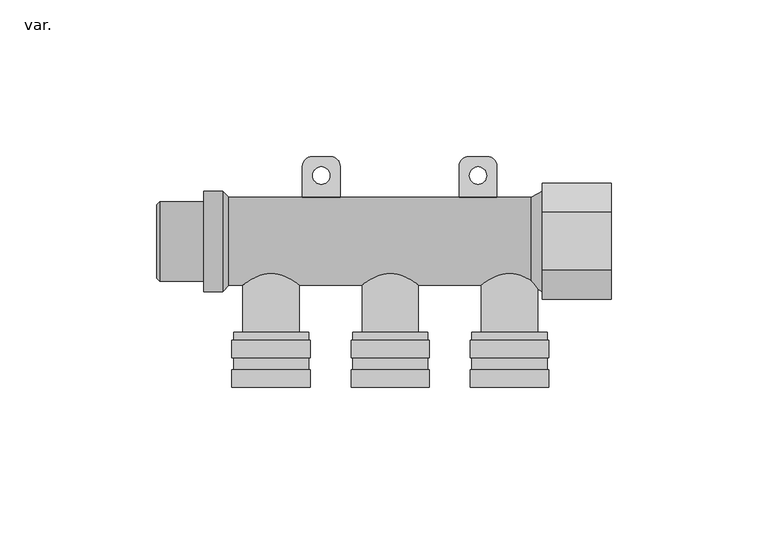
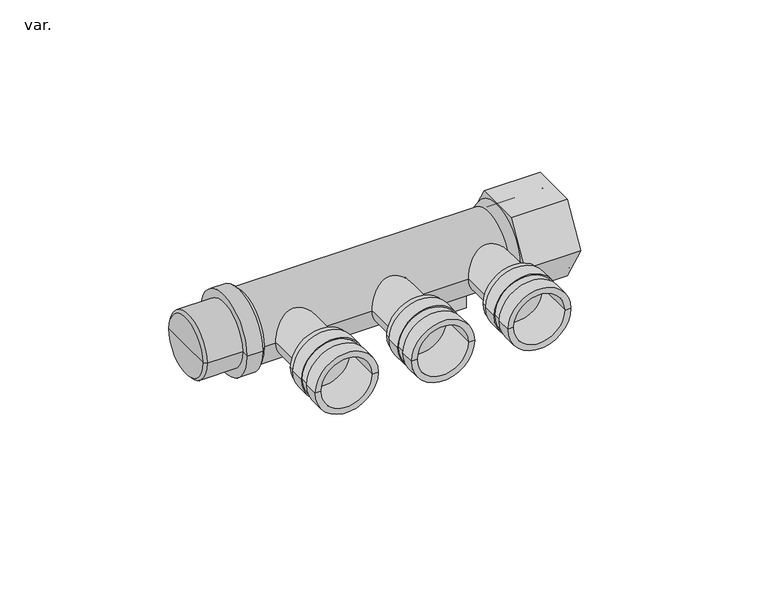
"""IFC4 building model written with IfcOpenShell, lengths in millimetres: pipe fitting geometry, AmancoWavin_ConexõesdeTubos_PEXMódulodeDistribuiçãoAberto3_4x20mm : var.."""

from ifc_helpers import new_model, si_unit, point, frame, origin, origin_2d, place, context, project, spatial, polyline, circle_curve, trimmed, segment, composite_curve, outline, extrude, source, transform, mapped, element, save
from ifc_brep_helpers import plane_surface, cylinder_surface, revolved_surface, advanced_brep


def var_1ea79091(model_context):
    return source(origin(), model_context, "Body", "SolidModel", [
        advanced_brep(
        [(125.0, -46.5, 0.0), (100.0, -46.5, 0.0), (100.0, -40.875, 0.0), (125.0, -40.875, 0.0), (122.675, -46.5, 0.0), (102.325, -46.5, 0.0), (122.675, -31.5, 0.0), (102.325, -31.5, 0.0), (125.0, -31.5, 0.0), (100.0, -31.5, 0.0), (125.0, -37.125, 0.0), (100.0, -37.125, 0.0), (100.5, -40.875, 0.0), (124.5, -40.875, 0.0), (100.5, -37.125, 0.0), (124.5, -37.125, 0.0)],
        [
            (0, 1, circle_curve(frame((112.5, -46.5, 0.0), z_axis=(0.0, 1.0, 0.0), x_axis=(-1.0, 0.0, 0.0)), 12.5)),
            (1, 2),
            (2, 3, circle_curve(frame((112.5, -40.875, 0.0), z_axis=(0.0, -1.0, 0.0), x_axis=(-1.0, 0.0, 0.0)), 12.5)),
            (3, 0),
            (1, 0, circle_curve(frame((112.5, -46.5, 0.0), z_axis=(0.0, 1.0, 0.0), x_axis=(-1.0, 0.0, 0.0)), 12.5)),
            (3, 2, circle_curve(frame((112.5, -40.875, 0.0), z_axis=(0.0, -1.0, 0.0), x_axis=(-1.0, 0.0, 0.0)), 12.5)),
            (0, 4),
            (4, 5, circle_curve(frame((112.5, -46.5, 0.0), z_axis=(0.0, 1.0, 0.0), x_axis=(-1.0, 0.0, 0.0)), 10.175)),
            (5, 1),
            (5, 4, circle_curve(frame((112.5, -46.5, 0.0), z_axis=(0.0, 1.0, 0.0), x_axis=(-1.0, 0.0, 0.0)), 10.175)),
            (4, 6),
            (6, 7, circle_curve(frame((112.5, -31.5, 0.0), z_axis=(0.0, 1.0, 0.0), x_axis=(-1.0, 0.0, 0.0)), 10.175)),
            (7, 5),
            (7, 6, circle_curve(frame((112.5, -31.5, 0.0), z_axis=(0.0, 1.0, 0.0), x_axis=(-1.0, 0.0, 0.0)), 10.175)),
            (6, 8),
            (8, 9, circle_curve(frame((112.5, -31.5, 0.0), z_axis=(0.0, 1.0, 0.0), x_axis=(-1.0, 0.0, 0.0)), 12.5)),
            (9, 7),
            (9, 8, circle_curve(frame((112.5, -31.5, 0.0), z_axis=(0.0, 1.0, 0.0), x_axis=(-1.0, 0.0, 0.0)), 12.5)),
            (8, 10),
            (10, 11, circle_curve(frame((112.5, -37.125, 0.0), z_axis=(0.0, 1.0, 0.0), x_axis=(-1.0, 0.0, 0.0)), 12.5)),
            (11, 9),
            (11, 10, circle_curve(frame((112.5, -37.125, 0.0), z_axis=(0.0, 1.0, 0.0), x_axis=(-1.0, 0.0, 0.0)), 12.5)),
            (12, 13, circle_curve(frame((112.5, -40.875, 0.0), z_axis=(0.0, -1.0, 0.0), x_axis=(-1.0, 0.0, 0.0)), 12.0)),
            (13, 3),
            (2, 12),
            (13, 12, circle_curve(frame((112.5, -40.875, 0.0), z_axis=(0.0, -1.0, 0.0), x_axis=(-1.0, 0.0, 0.0)), 12.0)),
            (12, 14),
            (14, 15, circle_curve(frame((112.5, -37.125, 0.0), z_axis=(0.0, -1.0, 0.0), x_axis=(-1.0, 0.0, 0.0)), 12.0)),
            (15, 13),
            (15, 14, circle_curve(frame((112.5, -37.125, 0.0), z_axis=(0.0, -1.0, 0.0), x_axis=(-1.0, 0.0, 0.0)), 12.0)),
            (14, 11),
            (10, 15),
        ],
        [
            cylinder_surface(frame((112.5, -2040.6007619, 0.0), z_axis=(0.0, -1.0, 0.0), x_axis=(-1.0, 0.0, 0.0)), 12.5),
            plane_surface(frame((112.5, -46.5, 0.0), z_axis=(0.0, -1.0, 0.0), x_axis=(-1.0, 0.0, 0.0))),
            revolved_surface(polyline([(102.325, -46.5, 0.0), (102.325, -31.5, 0.0)]), (112.5, -2040.6007619, 0.0), (0.0, -1.0, 0.0)),
            plane_surface(frame((112.5, -31.5, 0.0), z_axis=(0.0, 1.0, 0.0), x_axis=(-1.0, 0.0, 0.0))),
            plane_surface(frame((112.5, -40.875, 0.0), z_axis=(0.0, 1.0, 0.0), x_axis=(-1.0, 0.0, 0.0))),
            cylinder_surface(frame((112.5, -2040.6007619, 0.0), z_axis=(0.0, -1.0, 0.0), x_axis=(-1.0, 0.0, 0.0)), 12.0),
            plane_surface(frame((112.5, -37.125, 0.0), z_axis=(0.0, -1.0, 0.0), x_axis=(-1.0, 0.0, 0.0))),
        ],
        [
            (0, [[1, 2, 3, 4]]),
            (0, [[5, -4, 6, -2]]),
            (1, [[-1, 7, 8, 9]]),
            (1, [[-5, -9, 10, -7]]),
            (2, [[-8, 11, 12, 13]]),
            (2, [[-10, -13, 14, -11]]),
            (3, [[-12, 15, 16, 17]]),
            (3, [[-14, -17, 18, -15]]),
            (0, [[-16, 19, 20, 21]]),
            (0, [[-18, -21, 22, -19]]),
            (4, [[23, 24, -3, 25]]),
            (4, [[26, -25, -6, -24]]),
            (5, [[-23, 27, 28, 29]]),
            (5, [[-26, -29, 30, -27]]),
            (6, [[-28, 31, -20, 32]]),
            (6, [[-30, -32, -22, -31]]),
        ],
    ),
        advanced_brep(
        [(87.0, -46.5, 0.0), (62.0, -46.5, 0.0), (62.0, -40.875, 0.0), (87.0, -40.875, 0.0), (84.675, -46.5, 0.0), (64.325, -46.5, 0.0), (84.675, -31.5, 0.0), (64.325, -31.5, 0.0), (87.0, -31.5, 0.0), (62.0, -31.5, 0.0), (87.0, -37.125, 0.0), (62.0, -37.125, 0.0), (62.5, -40.875, 0.0), (86.5, -40.875, 0.0), (62.5, -37.125, 0.0), (86.5, -37.125, 0.0)],
        [
            (0, 1, circle_curve(frame((74.5, -46.5, 0.0), z_axis=(0.0, 1.0, 0.0), x_axis=(-1.0, 0.0, 0.0)), 12.5)),
            (1, 2),
            (2, 3, circle_curve(frame((74.5, -40.875, 0.0), z_axis=(0.0, -1.0, 0.0), x_axis=(-1.0, 0.0, 0.0)), 12.5)),
            (3, 0),
            (1, 0, circle_curve(frame((74.5, -46.5, 0.0), z_axis=(0.0, 1.0, 0.0), x_axis=(-1.0, 0.0, 0.0)), 12.5)),
            (3, 2, circle_curve(frame((74.5, -40.875, 0.0), z_axis=(0.0, -1.0, 0.0), x_axis=(-1.0, 0.0, 0.0)), 12.5)),
            (0, 4),
            (4, 5, circle_curve(frame((74.5, -46.5, 0.0), z_axis=(0.0, 1.0, 0.0), x_axis=(-1.0, 0.0, 0.0)), 10.175)),
            (5, 1),
            (5, 4, circle_curve(frame((74.5, -46.5, 0.0), z_axis=(0.0, 1.0, 0.0), x_axis=(-1.0, 0.0, 0.0)), 10.175)),
            (4, 6),
            (6, 7, circle_curve(frame((74.5, -31.5, 0.0), z_axis=(0.0, 1.0, 0.0), x_axis=(-1.0, 0.0, 0.0)), 10.175)),
            (7, 5),
            (7, 6, circle_curve(frame((74.5, -31.5, 0.0), z_axis=(0.0, 1.0, 0.0), x_axis=(-1.0, 0.0, 0.0)), 10.175)),
            (6, 8),
            (8, 9, circle_curve(frame((74.5, -31.5, 0.0), z_axis=(0.0, 1.0, 0.0), x_axis=(-1.0, 0.0, 0.0)), 12.5)),
            (9, 7),
            (9, 8, circle_curve(frame((74.5, -31.5, 0.0), z_axis=(0.0, 1.0, 0.0), x_axis=(-1.0, 0.0, 0.0)), 12.5)),
            (8, 10),
            (10, 11, circle_curve(frame((74.5, -37.125, 0.0), z_axis=(0.0, 1.0, 0.0), x_axis=(-1.0, 0.0, 0.0)), 12.5)),
            (11, 9),
            (11, 10, circle_curve(frame((74.5, -37.125, 0.0), z_axis=(0.0, 1.0, 0.0), x_axis=(-1.0, 0.0, 0.0)), 12.5)),
            (12, 13, circle_curve(frame((74.5, -40.875, 0.0), z_axis=(0.0, -1.0, 0.0), x_axis=(-1.0, 0.0, 0.0)), 12.0)),
            (13, 3),
            (2, 12),
            (13, 12, circle_curve(frame((74.5, -40.875, 0.0), z_axis=(0.0, -1.0, 0.0), x_axis=(-1.0, 0.0, 0.0)), 12.0)),
            (12, 14),
            (14, 15, circle_curve(frame((74.5, -37.125, 0.0), z_axis=(0.0, -1.0, 0.0), x_axis=(-1.0, 0.0, 0.0)), 12.0)),
            (15, 13),
            (15, 14, circle_curve(frame((74.5, -37.125, 0.0), z_axis=(0.0, -1.0, 0.0), x_axis=(-1.0, 0.0, 0.0)), 12.0)),
            (14, 11),
            (10, 15),
        ],
        [
            cylinder_surface(frame((74.5, -2040.6007619, 0.0), z_axis=(0.0, -1.0, 0.0), x_axis=(-1.0, 0.0, 0.0)), 12.5),
            plane_surface(frame((74.5, -46.5, 0.0), z_axis=(0.0, -1.0, 0.0), x_axis=(-1.0, 0.0, 0.0))),
            revolved_surface(polyline([(64.325, -46.5, 0.0), (64.325, -31.5, 0.0)]), (74.5, -2040.6007619, 0.0), (0.0, -1.0, 0.0)),
            plane_surface(frame((74.5, -31.5, 0.0), z_axis=(0.0, 1.0, 0.0), x_axis=(-1.0, 0.0, 0.0))),
            plane_surface(frame((74.5, -40.875, 0.0), z_axis=(0.0, 1.0, 0.0), x_axis=(-1.0, 0.0, 0.0))),
            cylinder_surface(frame((74.5, -2040.6007619, 0.0), z_axis=(0.0, -1.0, 0.0), x_axis=(-1.0, 0.0, 0.0)), 12.0),
            plane_surface(frame((74.5, -37.125, 0.0), z_axis=(0.0, -1.0, 0.0), x_axis=(-1.0, 0.0, 0.0))),
        ],
        [
            (0, [[1, 2, 3, 4]]),
            (0, [[5, -4, 6, -2]]),
            (1, [[-1, 7, 8, 9]]),
            (1, [[-5, -9, 10, -7]]),
            (2, [[-8, 11, 12, 13]]),
            (2, [[-10, -13, 14, -11]]),
            (3, [[-12, 15, 16, 17]]),
            (3, [[-14, -17, 18, -15]]),
            (0, [[-16, 19, 20, 21]]),
            (0, [[-18, -21, 22, -19]]),
            (4, [[23, 24, -3, 25]]),
            (4, [[26, -25, -6, -24]]),
            (5, [[-23, 27, 28, 29]]),
            (5, [[-26, -29, 30, -27]]),
            (6, [[-28, 31, -20, 32]]),
            (6, [[-30, -32, -22, -31]]),
        ],
    ),
        advanced_brep(
        [(49.0, -46.5, 0.0), (24.0, -46.5, 0.0), (24.0, -40.875, 0.0), (49.0, -40.875, 0.0), (46.675, -46.5, 0.0), (26.325, -46.5, 0.0), (46.675, -31.5, 0.0), (26.325, -31.5, 0.0), (49.0, -31.5, 0.0), (24.0, -31.5, 0.0), (49.0, -37.125, 0.0), (24.0, -37.125, 0.0), (24.5, -40.875, 0.0), (48.5, -40.875, 0.0), (24.5, -37.125, 0.0), (48.5, -37.125, 0.0)],
        [
            (0, 1, circle_curve(frame((36.5, -46.5, 0.0), z_axis=(0.0, 1.0, 0.0), x_axis=(-1.0, 0.0, 0.0)), 12.5)),
            (1, 2),
            (2, 3, circle_curve(frame((36.5, -40.875, 0.0), z_axis=(0.0, -1.0, 0.0), x_axis=(-1.0, 0.0, 0.0)), 12.5)),
            (3, 0),
            (1, 0, circle_curve(frame((36.5, -46.5, 0.0), z_axis=(0.0, 1.0, 0.0), x_axis=(-1.0, 0.0, 0.0)), 12.5)),
            (3, 2, circle_curve(frame((36.5, -40.875, 0.0), z_axis=(0.0, -1.0, 0.0), x_axis=(-1.0, 0.0, 0.0)), 12.5)),
            (0, 4),
            (4, 5, circle_curve(frame((36.5, -46.5, 0.0), z_axis=(0.0, 1.0, 0.0), x_axis=(-1.0, 0.0, 0.0)), 10.175)),
            (5, 1),
            (5, 4, circle_curve(frame((36.5, -46.5, 0.0), z_axis=(0.0, 1.0, 0.0), x_axis=(-1.0, 0.0, 0.0)), 10.175)),
            (4, 6),
            (6, 7, circle_curve(frame((36.5, -31.5, 0.0), z_axis=(0.0, 1.0, 0.0), x_axis=(-1.0, 0.0, 0.0)), 10.175)),
            (7, 5),
            (7, 6, circle_curve(frame((36.5, -31.5, 0.0), z_axis=(0.0, 1.0, 0.0), x_axis=(-1.0, 0.0, 0.0)), 10.175)),
            (6, 8),
            (8, 9, circle_curve(frame((36.5, -31.5, 0.0), z_axis=(0.0, 1.0, 0.0), x_axis=(-1.0, 0.0, 0.0)), 12.5)),
            (9, 7),
            (9, 8, circle_curve(frame((36.5, -31.5, 0.0), z_axis=(0.0, 1.0, 0.0), x_axis=(-1.0, 0.0, 0.0)), 12.5)),
            (8, 10),
            (10, 11, circle_curve(frame((36.5, -37.125, 0.0), z_axis=(0.0, 1.0, 0.0), x_axis=(-1.0, 0.0, 0.0)), 12.5)),
            (11, 9),
            (11, 10, circle_curve(frame((36.5, -37.125, 0.0), z_axis=(0.0, 1.0, 0.0), x_axis=(-1.0, 0.0, 0.0)), 12.5)),
            (12, 13, circle_curve(frame((36.5, -40.875, 0.0), z_axis=(0.0, -1.0, 0.0), x_axis=(-1.0, 0.0, 0.0)), 12.0)),
            (13, 3),
            (2, 12),
            (13, 12, circle_curve(frame((36.5, -40.875, 0.0), z_axis=(0.0, -1.0, 0.0), x_axis=(-1.0, 0.0, 0.0)), 12.0)),
            (12, 14),
            (14, 15, circle_curve(frame((36.5, -37.125, 0.0), z_axis=(0.0, -1.0, 0.0), x_axis=(-1.0, 0.0, 0.0)), 12.0)),
            (15, 13),
            (15, 14, circle_curve(frame((36.5, -37.125, 0.0), z_axis=(0.0, -1.0, 0.0), x_axis=(-1.0, 0.0, 0.0)), 12.0)),
            (14, 11),
            (10, 15),
        ],
        [
            cylinder_surface(frame((36.5, -2040.6007619, 0.0), z_axis=(0.0, -1.0, 0.0), x_axis=(-1.0, 0.0, 0.0)), 12.5),
            plane_surface(frame((36.5, -46.5, 0.0), z_axis=(0.0, -1.0, 0.0), x_axis=(-1.0, 0.0, 0.0))),
            revolved_surface(polyline([(26.325, -46.5, 0.0), (26.325, -31.5, 0.0)]), (36.5, -2040.6007619, 0.0), (0.0, -1.0, 0.0)),
            plane_surface(frame((36.5, -31.5, 0.0), z_axis=(0.0, 1.0, 0.0), x_axis=(-1.0, 0.0, 0.0))),
            plane_surface(frame((36.5, -40.875, 0.0), z_axis=(0.0, 1.0, 0.0), x_axis=(-1.0, 0.0, 0.0))),
            cylinder_surface(frame((36.5, -2040.6007619, 0.0), z_axis=(0.0, -1.0, 0.0), x_axis=(-1.0, 0.0, 0.0)), 12.0),
            plane_surface(frame((36.5, -37.125, 0.0), z_axis=(0.0, -1.0, 0.0), x_axis=(-1.0, 0.0, 0.0))),
        ],
        [
            (0, [[1, 2, 3, 4]]),
            (0, [[5, -4, 6, -2]]),
            (1, [[-1, 7, 8, 9]]),
            (1, [[-5, -9, 10, -7]]),
            (2, [[-8, 11, 12, 13]]),
            (2, [[-10, -13, 14, -11]]),
            (3, [[-12, 15, 16, 17]]),
            (3, [[-14, -17, 18, -15]]),
            (0, [[-16, 19, 20, 21]]),
            (0, [[-18, -21, 22, -19]]),
            (4, [[23, 24, -3, 25]]),
            (4, [[26, -25, -6, -24]]),
            (5, [[-23, 27, 28, 29]]),
            (5, [[-26, -29, 30, -27]]),
            (6, [[-28, 31, -20, 32]]),
            (6, [[-30, -32, -22, -31]]),
        ],
    ),
        advanced_brep(
        [(121.5, 0.0, 0.0), (103.5, 0.0, 0.0), (112.5, 0.0, 0.0), (121.5, -29.0, 0.0), (103.5, -29.0, 0.0), (124.5, -29.0, 0.0), (100.5, -29.0, 0.0), (124.5, -31.5, 0.0), (100.5, -31.5, 0.0), (112.5, -31.5, 0.0)],
        [
            (0, 1, circle_curve(frame((112.5, 0.0, 0.0), z_axis=(0.0, 1.0, 0.0), x_axis=(-1.0, 0.0, 0.0)), 9.0)),
            (1, 2),
            (2, 0),
            (1, 0, circle_curve(frame((112.5, 0.0, 0.0), z_axis=(0.0, 1.0, 0.0), x_axis=(-1.0, 0.0, 0.0)), 9.0)),
            (3, 4, circle_curve(frame((112.5, -29.0, 0.0), z_axis=(0.0, 1.0, 0.0), x_axis=(-1.0, 0.0, 0.0)), 9.0)),
            (4, 1),
            (0, 3),
            (4, 3, circle_curve(frame((112.5, -29.0, 0.0), z_axis=(0.0, 1.0, 0.0), x_axis=(-1.0, 0.0, 0.0)), 9.0)),
            (5, 6, circle_curve(frame((112.5, -29.0, 0.0), z_axis=(0.0, 1.0, 0.0), x_axis=(-1.0, 0.0, 0.0)), 12.0)),
            (6, 4),
            (3, 5),
            (6, 5, circle_curve(frame((112.5, -29.0, 0.0), z_axis=(0.0, 1.0, 0.0), x_axis=(-1.0, 0.0, 0.0)), 12.0)),
            (7, 8, circle_curve(frame((112.5, -31.5, 0.0), z_axis=(0.0, 1.0, 0.0), x_axis=(-1.0, 0.0, 0.0)), 12.0)),
            (8, 6),
            (5, 7),
            (8, 7, circle_curve(frame((112.5, -31.5, 0.0), z_axis=(0.0, 1.0, 0.0), x_axis=(-1.0, 0.0, 0.0)), 12.0)),
            (9, 8),
            (7, 9),
        ],
        [
            plane_surface(frame((112.5, 0.0, 0.0), z_axis=(0.0, 1.0, 0.0), x_axis=(-1.0, 0.0, 0.0))),
            cylinder_surface(frame((112.5, 0.0, 0.0), z_axis=(0.0, -1.0, 0.0), x_axis=(-1.0, 0.0, 0.0)), 9.0),
            plane_surface(frame((112.5, -29.0, 0.0), z_axis=(0.0, 1.0, 0.0), x_axis=(-1.0, 0.0, 0.0))),
            cylinder_surface(frame((112.5, 0.0, 0.0), z_axis=(0.0, -1.0, 0.0), x_axis=(-1.0, 0.0, 0.0)), 12.0),
            plane_surface(frame((112.5, -31.5, 0.0), z_axis=(0.0, -1.0, 0.0), x_axis=(-1.0, 0.0, 0.0))),
        ],
        [
            (0, [[1, 2, 3]]),
            (0, [[4, -3, -2]]),
            (1, [[5, 6, -1, 7]]),
            (1, [[8, -7, -4, -6]]),
            (2, [[9, 10, -5, 11]]),
            (2, [[12, -11, -8, -10]]),
            (3, [[13, 14, -9, 15]]),
            (3, [[16, -15, -12, -14]]),
            (4, [[17, -13, 18]]),
            (4, [[-18, -16, -17]]),
        ],
    ),
        advanced_brep(
        [(83.5, 0.0, 0.0), (65.5, 0.0, 0.0), (74.5, 0.0, 0.0), (83.5, -29.0, 0.0), (65.5, -29.0, 0.0), (86.5, -29.0, 0.0), (62.5, -29.0, 0.0), (86.5, -31.5, 0.0), (62.5, -31.5, 0.0), (74.5, -31.5, 0.0)],
        [
            (0, 1, circle_curve(frame((74.5, 0.0, 0.0), z_axis=(0.0, 1.0, 0.0), x_axis=(-1.0, 0.0, 0.0)), 9.0)),
            (1, 2),
            (2, 0),
            (1, 0, circle_curve(frame((74.5, 0.0, 0.0), z_axis=(0.0, 1.0, 0.0), x_axis=(-1.0, 0.0, 0.0)), 9.0)),
            (3, 4, circle_curve(frame((74.5, -29.0, 0.0), z_axis=(0.0, 1.0, 0.0), x_axis=(-1.0, 0.0, 0.0)), 9.0)),
            (4, 1),
            (0, 3),
            (4, 3, circle_curve(frame((74.5, -29.0, 0.0), z_axis=(0.0, 1.0, 0.0), x_axis=(-1.0, 0.0, 0.0)), 9.0)),
            (5, 6, circle_curve(frame((74.5, -29.0, 0.0), z_axis=(0.0, 1.0, 0.0), x_axis=(-1.0, 0.0, 0.0)), 12.0)),
            (6, 4),
            (3, 5),
            (6, 5, circle_curve(frame((74.5, -29.0, 0.0), z_axis=(0.0, 1.0, 0.0), x_axis=(-1.0, 0.0, 0.0)), 12.0)),
            (7, 8, circle_curve(frame((74.5, -31.5, 0.0), z_axis=(0.0, 1.0, 0.0), x_axis=(-1.0, 0.0, 0.0)), 12.0)),
            (8, 6),
            (5, 7),
            (8, 7, circle_curve(frame((74.5, -31.5, 0.0), z_axis=(0.0, 1.0, 0.0), x_axis=(-1.0, 0.0, 0.0)), 12.0)),
            (9, 8),
            (7, 9),
        ],
        [
            plane_surface(frame((74.5, 0.0, 0.0), z_axis=(0.0, 1.0, 0.0), x_axis=(-1.0, 0.0, 0.0))),
            cylinder_surface(frame((74.5, 0.0, 0.0), z_axis=(0.0, -1.0, 0.0), x_axis=(-1.0, 0.0, 0.0)), 9.0),
            plane_surface(frame((74.5, -29.0, 0.0), z_axis=(0.0, 1.0, 0.0), x_axis=(-1.0, 0.0, 0.0))),
            cylinder_surface(frame((74.5, 0.0, 0.0), z_axis=(0.0, -1.0, 0.0), x_axis=(-1.0, 0.0, 0.0)), 12.0),
            plane_surface(frame((74.5, -31.5, 0.0), z_axis=(0.0, -1.0, 0.0), x_axis=(-1.0, 0.0, 0.0))),
        ],
        [
            (0, [[1, 2, 3]]),
            (0, [[4, -3, -2]]),
            (1, [[5, 6, -1, 7]]),
            (1, [[8, -7, -4, -6]]),
            (2, [[9, 10, -5, 11]]),
            (2, [[12, -11, -8, -10]]),
            (3, [[13, 14, -9, 15]]),
            (3, [[16, -15, -12, -14]]),
            (4, [[17, -13, 18]]),
            (4, [[-18, -16, -17]]),
        ],
    ),
        advanced_brep(
        [(45.5, 0.0, 0.0), (27.5, 0.0, 0.0), (36.5, 0.0, 0.0), (45.5, -29.0, 0.0), (27.5, -29.0, 0.0), (48.5, -29.0, 0.0), (24.5, -29.0, 0.0), (48.5, -31.5, 0.0), (24.5, -31.5, 0.0), (36.5, -31.5, 0.0)],
        [
            (0, 1, circle_curve(frame((36.5, 0.0, 0.0), z_axis=(0.0, 1.0, 0.0), x_axis=(-1.0, 0.0, 0.0)), 9.0)),
            (1, 2),
            (2, 0),
            (1, 0, circle_curve(frame((36.5, 0.0, 0.0), z_axis=(0.0, 1.0, 0.0), x_axis=(-1.0, 0.0, 0.0)), 9.0)),
            (3, 4, circle_curve(frame((36.5, -29.0, 0.0), z_axis=(0.0, 1.0, 0.0), x_axis=(-1.0, 0.0, 0.0)), 9.0)),
            (4, 1),
            (0, 3),
            (4, 3, circle_curve(frame((36.5, -29.0, 0.0), z_axis=(0.0, 1.0, 0.0), x_axis=(-1.0, 0.0, 0.0)), 9.0)),
            (5, 6, circle_curve(frame((36.5, -29.0, 0.0), z_axis=(0.0, 1.0, 0.0), x_axis=(-1.0, 0.0, 0.0)), 12.0)),
            (6, 4),
            (3, 5),
            (6, 5, circle_curve(frame((36.5, -29.0, 0.0), z_axis=(0.0, 1.0, 0.0), x_axis=(-1.0, 0.0, 0.0)), 12.0)),
            (7, 8, circle_curve(frame((36.5, -31.5, 0.0), z_axis=(0.0, 1.0, 0.0), x_axis=(-1.0, 0.0, 0.0)), 12.0)),
            (8, 6),
            (5, 7),
            (8, 7, circle_curve(frame((36.5, -31.5, 0.0), z_axis=(0.0, 1.0, 0.0), x_axis=(-1.0, 0.0, 0.0)), 12.0)),
            (9, 8),
            (7, 9),
        ],
        [
            plane_surface(frame((36.5, 0.0, 0.0), z_axis=(0.0, 1.0, 0.0), x_axis=(-1.0, 0.0, 0.0))),
            cylinder_surface(frame((36.5, 0.0, 0.0), z_axis=(0.0, -1.0, 0.0), x_axis=(-1.0, 0.0, 0.0)), 9.0),
            plane_surface(frame((36.5, -29.0, 0.0), z_axis=(0.0, 1.0, 0.0), x_axis=(-1.0, 0.0, 0.0))),
            cylinder_surface(frame((36.5, 0.0, 0.0), z_axis=(0.0, -1.0, 0.0), x_axis=(-1.0, 0.0, 0.0)), 12.0),
            plane_surface(frame((36.5, -31.5, 0.0), z_axis=(0.0, -1.0, 0.0), x_axis=(-1.0, 0.0, 0.0))),
        ],
        [
            (0, [[1, 2, 3]]),
            (0, [[4, -3, -2]]),
            (1, [[5, 6, -1, 7]]),
            (1, [[8, -7, -4, -6]]),
            (2, [[9, 10, -5, 11]]),
            (2, [[12, -11, -8, -10]]),
            (3, [[13, 14, -9, 15]]),
            (3, [[16, -15, -12, -14]]),
            (4, [[17, -13, 18]]),
            (4, [[-18, -16, -17]]),
        ],
    ),
        advanced_brep(
        [(96.5, -3.5, 0.0), (108.5, -3.5, 0.0), (108.5, 14.0, 0.0), (96.5, 14.0, 0.0), (96.5, 24.0, -20.0), (99.5, 27.0, -20.0), (105.5, 27.0, -20.0), (108.5, 24.0, -20.0), (108.5, -3.5, -20.0), (96.5, -3.5, -20.0), (99.75, 21.0, -20.0), (105.25, 21.0, -20.0), (108.5, 24.0, -16.5), (108.5, 14.0, -16.5), (96.5, 14.0, -16.5), (96.5, 24.0, -16.5), (105.5, 27.0, -16.5), (99.5, 27.0, -16.5), (99.75, 21.0, -16.5), (105.25, 21.0, -16.5)],
        [
            (0, 1),
            (1, 2),
            (2, 3),
            (3, 0),
            (4, 5, circle_curve(frame((99.5, 24.0, -20.0), z_axis=(0.0, 0.0, -1.0), x_axis=(1.0, 0.0, 0.0)), 3.0)),
            (5, 6),
            (6, 7, circle_curve(frame((105.5, 24.0, -20.0), z_axis=(0.0, 0.0, -1.0), x_axis=(1.0, 0.0, 0.0)), 3.0)),
            (7, 8),
            (8, 9),
            (9, 4),
            (10, 11, circle_curve(frame((102.5, 21.0, -20.0), z_axis=(0.0, 0.0, 1.0), x_axis=(1.0, 0.0, 0.0)), 2.75)),
            (11, 10, circle_curve(frame((102.5, 21.0, -20.0), z_axis=(0.0, 0.0, 1.0), x_axis=(1.0, 0.0, 0.0)), 2.75)),
            (8, 1),
            (0, 9),
            (7, 12),
            (12, 13),
            (13, 2),
            (13, 14),
            (14, 3),
            (14, 15),
            (15, 4),
            (16, 17),
            (17, 15, circle_curve(frame((99.5, 24.0, -16.5), z_axis=(0.0, 0.0, 1.0), x_axis=(1.0, 0.0, 0.0)), 3.0)),
            (12, 16, circle_curve(frame((105.5, 24.0, -16.5), z_axis=(0.0, 0.0, 1.0), x_axis=(1.0, 0.0, 0.0)), 3.0)),
            (18, 19, circle_curve(frame((102.5, 21.0, -16.5), z_axis=(0.0, 0.0, -1.0), x_axis=(1.0, 0.0, 0.0)), 2.75)),
            (19, 18, circle_curve(frame((102.5, 21.0, -16.5), z_axis=(0.0, 0.0, -1.0), x_axis=(1.0, 0.0, 0.0)), 2.75)),
            (5, 17),
            (16, 6),
            (11, 19),
            (18, 10),
        ],
        [
            plane_surface(frame((108.5, -3.5, 0.0), z_axis=(0.0, 0.0, 1.0), x_axis=(1.0, 0.0, 0.0))),
            plane_surface(frame((108.5, -3.5, -20.0), z_axis=(0.0, 0.0, -1.0), x_axis=(-1.0, 0.0, 0.0))),
            plane_surface(frame((96.5, -3.5, 0.0), z_axis=(0.0, -1.0, 0.0), x_axis=(0.0, 0.0, -1.0))),
            plane_surface(frame((108.5, -3.5, 0.0), z_axis=(1.0, 0.0, 0.0), x_axis=(0.0, 0.0, -1.0))),
            plane_surface(frame((108.5, 14.0, 0.0), z_axis=(0.0, 1.0, 0.0), x_axis=(0.0, 0.0, -1.0))),
            plane_surface(frame((96.5, 14.0, 0.0), z_axis=(-1.0, 0.0, 0.0), x_axis=(0.0, 0.0, -1.0))),
            plane_surface(frame((99.5, 27.0, -16.5), z_axis=(0.0, 0.0, 1.0), x_axis=(-1.0, 0.0, 0.0))),
            plane_surface(frame((105.5, 27.0, -16.5), z_axis=(0.0, 1.0, 0.0), x_axis=(0.0, 0.0, -1.0))),
            cylinder_surface(frame((99.5, 24.0, -20.0), z_axis=(0.0, 0.0, 1.0), x_axis=(1.0, 0.0, 0.0)), 3.0),
            cylinder_surface(frame((105.5, 24.0, -20.0), z_axis=(0.0, 0.0, 1.0), x_axis=(1.0, 0.0, 0.0)), 3.0),
            revolved_surface(polyline([(105.25, 21.0, -20.0), (105.25, 21.0, -16.5)]), (102.5, 21.0, 0.0), (0.0, 0.0, -1.0)),
        ],
        [
            (0, [[1, 2, 3, 4]]),
            (1, [[5, 6, 7, 8, 9, 10], [11, 12]]),
            (2, [[13, -1, 14, -9]]),
            (3, [[-2, -13, -8, 15, 16, 17]]),
            (4, [[-3, -17, 18, 19]]),
            (5, [[-4, -19, 20, 21, -10, -14]]),
            (6, [[22, 23, -20, -18, -16, 24], [25, 26]]),
            (7, [[-6, 27, -22, 28]]),
            (8, [[-5, -21, -23, -27]]),
            (9, [[-7, -28, -24, -15]]),
            (10, [[-12, 29, -25, 30]]),
            (10, [[-11, -30, -26, -29]]),
        ],
    ),
        advanced_brep(
        [(46.5, -3.5, 0.0), (58.5, -3.5, 0.0), (58.5, 14.0, 0.0), (46.5, 14.0, 0.0), (46.5, 24.0, -20.0), (49.5, 27.0, -20.0), (55.5, 27.0, -20.0), (58.5, 24.0, -20.0), (58.5, -3.5, -20.0), (46.5, -3.5, -20.0), (49.75, 21.0, -20.0), (55.25, 21.0, -20.0), (58.5, 24.0, -16.5), (58.5, 14.0, -16.5), (46.5, 14.0, -16.5), (46.5, 24.0, -16.5), (55.5, 27.0, -16.5), (49.5, 27.0, -16.5), (49.75, 21.0, -16.5), (55.25, 21.0, -16.5)],
        [
            (0, 1),
            (1, 2),
            (2, 3),
            (3, 0),
            (4, 5, circle_curve(frame((49.5, 24.0, -20.0), z_axis=(0.0, 0.0, -1.0), x_axis=(1.0, 0.0, 0.0)), 3.0)),
            (5, 6),
            (6, 7, circle_curve(frame((55.5, 24.0, -20.0), z_axis=(0.0, 0.0, -1.0), x_axis=(1.0, 0.0, 0.0)), 3.0)),
            (7, 8),
            (8, 9),
            (9, 4),
            (10, 11, circle_curve(frame((52.5, 21.0, -20.0), z_axis=(0.0, 0.0, 1.0), x_axis=(1.0, 0.0, 0.0)), 2.75)),
            (11, 10, circle_curve(frame((52.5, 21.0, -20.0), z_axis=(0.0, 0.0, 1.0), x_axis=(1.0, 0.0, 0.0)), 2.75)),
            (8, 1),
            (0, 9),
            (7, 12),
            (12, 13),
            (13, 2),
            (13, 14),
            (14, 3),
            (14, 15),
            (15, 4),
            (16, 17),
            (17, 15, circle_curve(frame((49.5, 24.0, -16.5), z_axis=(0.0, 0.0, 1.0), x_axis=(1.0, 0.0, 0.0)), 3.0)),
            (12, 16, circle_curve(frame((55.5, 24.0, -16.5), z_axis=(0.0, 0.0, 1.0), x_axis=(1.0, 0.0, 0.0)), 3.0)),
            (18, 19, circle_curve(frame((52.5, 21.0, -16.5), z_axis=(0.0, 0.0, -1.0), x_axis=(1.0, 0.0, 0.0)), 2.75)),
            (19, 18, circle_curve(frame((52.5, 21.0, -16.5), z_axis=(0.0, 0.0, -1.0), x_axis=(1.0, 0.0, 0.0)), 2.75)),
            (16, 6),
            (5, 17),
            (18, 10),
            (11, 19),
        ],
        [
            plane_surface(frame((58.5, -3.5, 0.0), z_axis=(0.0, 0.0, 1.0), x_axis=(1.0, 0.0, 0.0))),
            plane_surface(frame((58.5, -3.5, -20.0), z_axis=(0.0, 0.0, -1.0), x_axis=(-1.0, 0.0, 0.0))),
            plane_surface(frame((46.5, -3.5, 0.0), z_axis=(0.0, -1.0, 0.0), x_axis=(0.0, 0.0, -1.0))),
            plane_surface(frame((58.5, -3.5, 0.0), z_axis=(1.0, 0.0, 0.0), x_axis=(0.0, 0.0, -1.0))),
            plane_surface(frame((58.5, 14.0, 0.0), z_axis=(0.0, 1.0, 0.0), x_axis=(0.0, 0.0, -1.0))),
            plane_surface(frame((46.5, 14.0, 0.0), z_axis=(-1.0, 0.0, 0.0), x_axis=(0.0, 0.0, -1.0))),
            plane_surface(frame((49.5, 27.0, -16.5), z_axis=(0.0, 0.0, 1.0), x_axis=(-1.0, 0.0, 0.0))),
            plane_surface(frame((55.5, 27.0, -16.5), z_axis=(0.0, 1.0, 0.0), x_axis=(0.0, 0.0, -1.0))),
            cylinder_surface(frame((49.5, 24.0, -20.0), z_axis=(0.0, 0.0, 1.0), x_axis=(1.0, 0.0, 0.0)), 3.0),
            cylinder_surface(frame((55.5, 24.0, -20.0), z_axis=(0.0, 0.0, 1.0), x_axis=(1.0, 0.0, 0.0)), 3.0),
            revolved_surface(polyline([(55.25, 21.0, -20.0), (55.25, 21.0, -16.5)]), (52.5, 21.0, 0.0), (0.0, 0.0, -1.0)),
        ],
        [
            (0, [[1, 2, 3, 4]]),
            (1, [[5, 6, 7, 8, 9, 10], [11, 12]]),
            (2, [[13, -1, 14, -9]]),
            (3, [[-2, -13, -8, 15, 16, 17]]),
            (4, [[-3, -17, 18, 19]]),
            (5, [[-4, -19, 20, 21, -10, -14]]),
            (6, [[22, 23, -20, -18, -16, 24], [25, 26]]),
            (7, [[-22, 27, -6, 28]]),
            (8, [[-23, -28, -5, -21]]),
            (9, [[-24, -15, -7, -27]]),
            (10, [[-25, 29, -12, 30]]),
            (10, [[-26, -30, -11, -29]]),
        ],
    ),
        extrude(outline(polyline([(18.4752086, 0.0), (9.2376043, -16.0), (-9.2376043, -16.0), (-18.4752086, 0.0), (-9.2376043, 16.0), (9.2376043, 16.0), (18.4752086, 0.0)]), holes=[composite_curve([segment(trimmed(circle_curve(origin_2d(), 12.7), [point((12.7, 0.0))], [point((-12.7, 0.0))], True, "CARTESIAN"), True, "CONTINUOUS"), segment(trimmed(circle_curve(origin_2d(), 12.7), [point((-12.7, 0.0))], [point((12.7, 0.0))], True, "CARTESIAN"), True, "CONTINUOUS")], self_intersect=False)]), frame((123.0, 0.0, 0.0), z_axis=(1.0, 0.0, 0.0), x_axis=(0.0, 1.0, 0.0)), (0.0, 0.0, 1.0), 22.0),
        advanced_brep(
        [(0.0, -11.7, 0.0), (0.0, 11.7, 0.0), (1.0, 12.7, 0.0), (1.0, -12.7, 0.0), (0.0, 0.0, 0.0), (15.0, 12.7, 0.0), (15.0, -12.7, 0.0), (127.0, -12.7, 0.0), (127.0, 12.7, 0.0), (127.0, 0.0, 0.0), (145.0, -12.7, 0.0), (145.0, 12.7, 0.0), (145.0, -16.0, 0.0), (145.0, 16.0, 0.0), (123.0, -16.0, 0.0), (123.0, 16.0, 0.0), (119.5358984, -14.0, 0.0), (119.5358984, 14.0, 0.0), (15.0, -16.0, 0.0), (15.0, 16.0, 0.0), (21.0, 16.0, 0.0), (21.0, -16.0, 0.0), (23.0, -14.0, 0.0), (23.0, 14.0, 0.0)],
        [
            (0, 1, circle_curve(frame((0.0, 0.0, 0.0), z_axis=(1.0, 0.0, 0.0), x_axis=(0.0, 1.0, 0.0)), 11.7)),
            (1, 2),
            (2, 3, circle_curve(frame((1.0, 0.0, 0.0), z_axis=(-1.0, 0.0, 0.0), x_axis=(0.0, 1.0, 0.0)), 12.7)),
            (3, 0),
            (1, 0, circle_curve(frame((0.0, 0.0, 0.0), z_axis=(1.0, 0.0, 0.0), x_axis=(0.0, 1.0, 0.0)), 11.7)),
            (3, 2, circle_curve(frame((1.0, 0.0, 0.0), z_axis=(-1.0, 0.0, 0.0), x_axis=(0.0, 1.0, 0.0)), 12.7)),
            (4, 1),
            (0, 4),
            (2, 5),
            (5, 6, circle_curve(frame((15.0, 0.0, 0.0), z_axis=(-1.0, 0.0, 0.0), x_axis=(0.0, 1.0, 0.0)), 12.7)),
            (6, 3),
            (6, 5, circle_curve(frame((15.0, 0.0, 0.0), z_axis=(-1.0, 0.0, 0.0), x_axis=(0.0, 1.0, 0.0)), 12.7)),
            (7, 8, circle_curve(frame((127.0, 0.0, 0.0), z_axis=(1.0, 0.0, 0.0), x_axis=(0.0, 1.0, 0.0)), 12.7)),
            (8, 9),
            (9, 7),
            (8, 7, circle_curve(frame((127.0, 0.0, 0.0), z_axis=(1.0, 0.0, 0.0), x_axis=(0.0, 1.0, 0.0)), 12.7)),
            (10, 11, circle_curve(frame((145.0, 0.0, 0.0), z_axis=(1.0, 0.0, 0.0), x_axis=(0.0, 1.0, 0.0)), 12.7)),
            (11, 8),
            (7, 10),
            (11, 10, circle_curve(frame((145.0, 0.0, 0.0), z_axis=(1.0, 0.0, 0.0), x_axis=(0.0, 1.0, 0.0)), 12.7)),
            (12, 13, circle_curve(frame((145.0, 0.0, 0.0), z_axis=(1.0, 0.0, 0.0), x_axis=(0.0, 1.0, 0.0)), 16.0)),
            (13, 11),
            (10, 12),
            (13, 12, circle_curve(frame((145.0, 0.0, 0.0), z_axis=(1.0, 0.0, 0.0), x_axis=(0.0, 1.0, 0.0)), 16.0)),
            (14, 15, circle_curve(frame((123.0, 0.0, 0.0), z_axis=(1.0, 0.0, 0.0), x_axis=(0.0, 1.0, 0.0)), 16.0)),
            (15, 13),
            (12, 14),
            (15, 14, circle_curve(frame((123.0, 0.0, 0.0), z_axis=(1.0, 0.0, 0.0), x_axis=(0.0, 1.0, 0.0)), 16.0)),
            (16, 17, circle_curve(frame((119.5358984, 0.0, 0.0), z_axis=(1.0, 0.0, 0.0), x_axis=(0.0, 1.0, 0.0)), 14.0)),
            (17, 15),
            (14, 16),
            (17, 16, circle_curve(frame((119.5358984, 0.0, 0.0), z_axis=(1.0, 0.0, 0.0), x_axis=(0.0, 1.0, 0.0)), 14.0)),
            (18, 19, circle_curve(frame((15.0, 0.0, 0.0), z_axis=(1.0, 0.0, 0.0), x_axis=(0.0, 1.0, 0.0)), 16.0)),
            (19, 20),
            (20, 21, circle_curve(frame((21.0, 0.0, 0.0), z_axis=(-1.0, 0.0, 0.0), x_axis=(0.0, 1.0, 0.0)), 16.0)),
            (21, 18),
            (19, 18, circle_curve(frame((15.0, 0.0, 0.0), z_axis=(1.0, 0.0, 0.0), x_axis=(0.0, 1.0, 0.0)), 16.0)),
            (21, 20, circle_curve(frame((21.0, 0.0, 0.0), z_axis=(-1.0, 0.0, 0.0), x_axis=(0.0, 1.0, 0.0)), 16.0)),
            (5, 19),
            (18, 6),
            (22, 23, circle_curve(frame((23.0, 0.0, 0.0), z_axis=(1.0, 0.0, 0.0), x_axis=(0.0, 1.0, 0.0)), 14.0)),
            (23, 17),
            (16, 22),
            (23, 22, circle_curve(frame((23.0, 0.0, 0.0), z_axis=(1.0, 0.0, 0.0), x_axis=(0.0, 1.0, 0.0)), 14.0)),
            (20, 23),
            (22, 21),
        ],
        [
            revolved_surface(polyline([(1.0, 12.7, 0.0), (0.0, 11.7, 0.0)]), (-2001.7466803, 0.0, 0.0), (-1.0, 0.0, 0.0)),
            plane_surface(frame((0.0, 0.0, 0.0), z_axis=(-1.0, 0.0, 0.0), x_axis=(0.0, 1.0, 0.0))),
            cylinder_surface(frame((-2001.7466803, 0.0, 0.0), z_axis=(-1.0, 0.0, 0.0), x_axis=(0.0, 1.0, 0.0)), 12.7),
            plane_surface(frame((127.0, 0.0, 0.0), z_axis=(1.0, 0.0, 0.0), x_axis=(0.0, 1.0, 0.0))),
            revolved_surface(polyline([(126.99999999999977, 12.7, 0.0), (144.99999999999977, 12.7, 0.0)]), (-2001.7466803, 0.0, 0.0), (-1.0, 0.0, 0.0)),
            plane_surface(frame((145.0, 0.0, 0.0), z_axis=(1.0, 0.0, 0.0), x_axis=(0.0, 1.0, 0.0))),
            cylinder_surface(frame((-2001.7466803, 0.0, 0.0), z_axis=(-1.0, 0.0, 0.0), x_axis=(0.0, 1.0, 0.0)), 16.0),
            revolved_surface(polyline([(123.0, 16.0, 0.0), (119.5358984, 14.0, 0.0)]), (-2001.7466803, 0.0, 0.0), (-1.0, 0.0, 0.0)),
            plane_surface(frame((15.0, 0.0, 0.0), z_axis=(-1.0, 0.0, 0.0), x_axis=(0.0, 1.0, 0.0))),
            cylinder_surface(frame((-2001.7466803, 0.0, 0.0), z_axis=(-1.0, 0.0, 0.0), x_axis=(0.0, 1.0, 0.0)), 14.0),
            revolved_surface(polyline([(23.0, 14.0, 0.0), (21.0, 16.0, 0.0)]), (-2001.7466803, 0.0, 0.0), (-1.0, 0.0, 0.0)),
        ],
        [
            (0, [[1, 2, 3, 4]]),
            (0, [[5, -4, 6, -2]]),
            (1, [[7, -1, 8]]),
            (1, [[-8, -5, -7]]),
            (2, [[-3, 9, 10, 11]]),
            (2, [[-6, -11, 12, -9]]),
            (3, [[13, 14, 15]]),
            (3, [[16, -15, -14]]),
            (4, [[17, 18, -13, 19]]),
            (4, [[20, -19, -16, -18]]),
            (5, [[21, 22, -17, 23]]),
            (5, [[24, -23, -20, -22]]),
            (6, [[25, 26, -21, 27]]),
            (6, [[28, -27, -24, -26]]),
            (7, [[29, 30, -25, 31]]),
            (7, [[32, -31, -28, -30]]),
            (6, [[33, 34, 35, 36]]),
            (6, [[37, -36, 38, -34]]),
            (8, [[-10, 39, -33, 40]]),
            (8, [[-12, -40, -37, -39]]),
            (9, [[41, 42, -29, 43]]),
            (9, [[44, -43, -32, -42]]),
            (10, [[-35, 45, -41, 46]]),
            (10, [[-38, -46, -44, -45]]),
        ],
    ),
    ])


if __name__ == "__main__":
    model = new_model("IFC4")
    model_context = context("Model", 3, world=origin())
    ifc_project = project(units=[si_unit("LENGTHUNIT", "METRE", prefix="MILLI")], contexts=[model_context])
    site = spatial("IfcSite", under=ifc_project)
    building = spatial("IfcBuilding", under=site)
    placement = place(None, origin())
    var_shape = var_1ea79091(model_context)
    element("IfcPipeFitting", 1, ObjectType="AmancoWavin_ConexõesdeTubos_PEXMódulodeDistribuiçãoAberto3_4x20mm : var.", at=placement, inside=building, context=model_context, shape_type="MappedRepresentation", body=[
        mapped(var_shape, transform((0.0, 0.0, 0.0), x_axis=(1.0, 0.0, 0.0), y_axis=(0.0, 1.0, 0.0), z_axis=(0.0, 0.0, 1.0))),
    ])
    save(model, "model.ifc")
